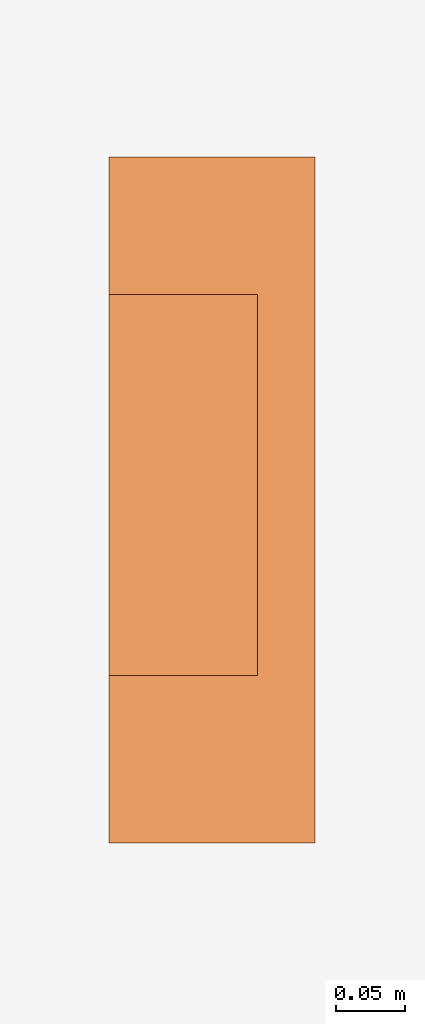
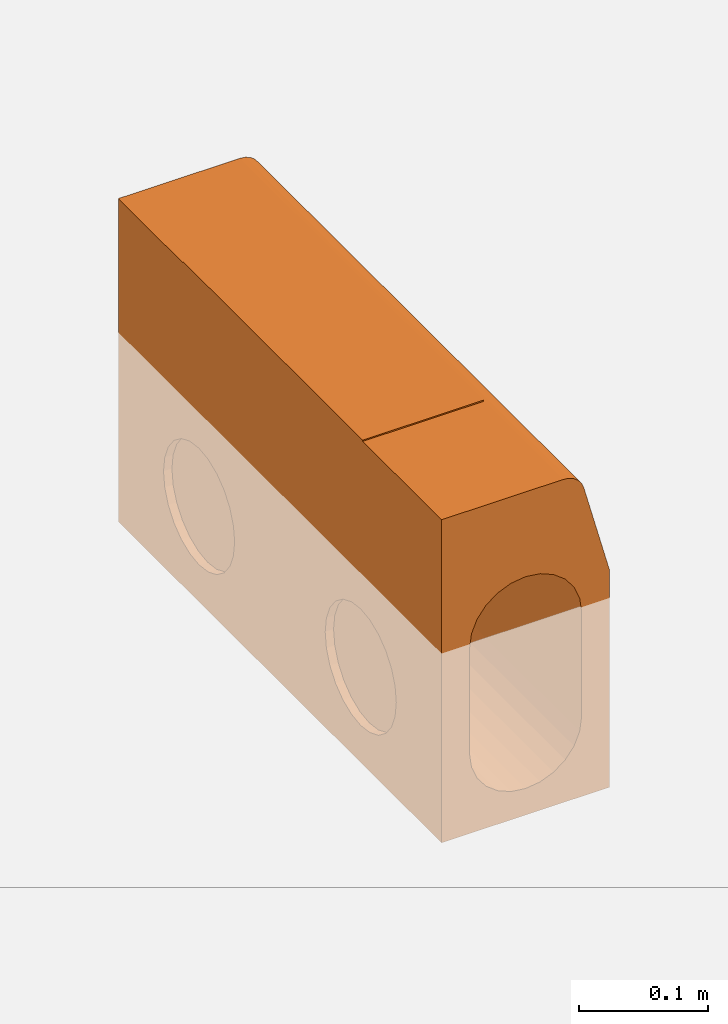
# One storey, part 2 of 2: 1 proxy.
"""IFC2X3 building model written with IfcOpenShell, lengths in millimetres."""

from ifc_helpers import new_model, entity, si_unit, converted_unit, direction, frame, origin, place, context, subcontext, project, spatial, faceted_brep, source, transform, mapped, material, material_list, element, save


model = new_model("IFC2X3")

# Units and contexts
model_context = context("Model", 3, precision=1e-06, world=origin(), true_north=direction((2.0, 6.12303176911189e-17, 1.0)))
context_of_model = context(None, 3, precision=1e-06, world=origin(), true_north=direction((2.0, 6.12303176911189e-17, 1.0)))
body_context = subcontext(model_context, "Body", "Model", "MODEL_VIEW")
ifc_project = project(units=[si_unit("LENGTHUNIT", "METRE", prefix="MILLI"), si_unit("AREAUNIT", "SQUARE_METRE", prefix="MILLI"), si_unit("VOLUMEUNIT", "CUBIC_METRE", prefix="MILLI"), converted_unit("PLANEANGLEUNIT", "DEGREE", entity("IfcRatioMeasure", 0.0174532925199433), si_unit("PLANEANGLEUNIT", "RADIAN"), dimensions=[0, 0, 0, 0, 0, 0, 0]), si_unit("TIMEUNIT", "SECOND")], contexts=[model_context, context_of_model])

# Site, building, storey
site_placement = place(None, origin())
site = spatial("IfcSite", under=ifc_project, at=site_placement, Name="Default", CompositionType="ELEMENT")
building_placement = place(site_placement, origin())
building = spatial("IfcBuilding", under=site, at=building_placement, CompositionType="ELEMENT")
storey_placement = place(building_placement, origin())
storey = spatial("IfcBuildingStorey", under=building, at=storey_placement, Name="Level 1", CompositionType="ELEMENT", Elevation=0.0)

# Proxy
ifc_material_1 = material(Name="ACO Polymer Concrete.")
ifc_material_2 = material(Name="Iron, Cast")
ifc_material_list = material_list([ifc_material_1, ifc_material_2])
shared_shape = source(origin(), body_context, "Body", "Brep", [
    faceted_brep([(-67.4955609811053, 321.876323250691, -75.764952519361), (-67.4955609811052, 347.50224369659, -42.3686027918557), (-67.4955609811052, 360.767196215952, -36.8740795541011), (-67.4955609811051, 375.00224369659, -35.0), (-67.4955609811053, 327.370846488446, -62.4999999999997), (-67.4955609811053, 336.11137073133, -51.1091270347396), (-67.4955609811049, 428.128164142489, -75.7649525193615), (-67.4955609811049, 413.89311666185, -128.89087296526), (-67.495560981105, 402.50224369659, -42.3686027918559), (-67.495560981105, 389.237291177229, -36.8740795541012), (-67.4955609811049, 413.89311666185, -51.10912703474), (-67.4955609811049, 422.633640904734, -62.5000000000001), (-67.4955609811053, 321.876323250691, -104.235047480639), (-67.4955609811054, 320.00224369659, -90.0), (-67.4955609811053, 336.11137073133, -128.89087296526), (-67.4955609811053, 327.370846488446, -117.5), (-67.4955609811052, 347.50224369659, -137.631397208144), (-67.4955609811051, 375.00224369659, -145.0), (-67.4955609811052, 360.767196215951, -143.125920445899), (-67.4955609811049, 428.128164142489, -104.235047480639), (-67.4955609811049, 422.633640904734, -117.5), (-67.4955609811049, 430.00224369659, -90.0), (-67.495560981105, 402.50224369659, -137.631397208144), (-67.495560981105, 389.237291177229, -143.125920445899), (-75.0, 0.0, -180.0), (-43.3012701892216, 0.0, -130.0), (-48.2962913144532, 0.0, -117.940952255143), (-35.3553390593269, 0.0, -140.355339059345), (-50.0, 0.0, -105.0), (-50.0, 0.0, -5.0), (75.0, 0.0, -180.0), (12.9409522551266, 0.0, -153.29629131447), (0.0, 0.0, -155.0), (-25.0, 0.0, -148.301270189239), (-12.9409522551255, 0.0, -153.29629131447), (-48.2962913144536, 0.0, 7.94095225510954), (-75.0, 0.0, 125.0), (-43.301270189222, 0.0, 20.0), (-35.3553390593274, 0.0, 30.3553390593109), (-25.0, 0.0, 38.3012701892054), (-12.940952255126, 0.0, 43.2962913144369), (0.0, 0.0, 45.0), (33.6258679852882, 0.0, 125.0), (12.9409522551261, 0.0, 43.2962913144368), (51.9784586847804, 0.0, 110.917561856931), (35.3553390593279, 0.0, -140.355339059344), (25.0, 0.0, -148.301270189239), (43.3012701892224, 0.0, -130.0), (48.2962913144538, 0.0, -117.940952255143), (50.0, 0.0, -105.0), (75.0, 0.0, 25.0), (50.0, 0.0, -5.0), (48.2962913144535, 0.0, 7.94095225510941), (43.301270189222, 0.0, 20.0), (43.1258679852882, 0.0, 122.454482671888), (38.5434298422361, 0.0, 124.352590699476), (47.0608968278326, 0.0, 119.435028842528), (25.0, 0.0, 38.3012701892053), (35.3553390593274, 0.0, 30.3553390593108), (50.0803506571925, 0.0, 115.499999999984), (75.0, 500.0, -180.0), (48.2962913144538, 500.0, -117.940952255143), (50.0, 500.0, -105.0), (75.0, 500.0, 25.0), (43.3012701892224, 500.0, -130.0), (50.0, 500.0, -5.0), (25.0, 500.0, -148.301270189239), (35.3553390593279, 500.0, -140.355339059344), (48.2962913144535, 500.0, 7.94095225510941), (43.301270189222, 500.0, 20.0), (12.9409522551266, 500.0, -153.29629131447), (50.0803506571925, 500.0, 115.499999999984), (51.9784586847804, 500.0, 110.917561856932), (33.6258679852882, 500.0, 125.0), (47.0608968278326, 500.0, 119.435028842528), (35.3553390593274, 500.0, 30.3553390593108), (25.0, 500.0, 38.3012701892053), (12.9409522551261, 500.0, 43.2962913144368), (38.5434298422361, 500.0, 124.352590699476), (43.1258679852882, 500.0, 122.454482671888), (-12.9409522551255, 500.0, -153.29629131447), (0.0, 500.0, -155.0), (-75.0, 500.0, -180.0), (-25.0, 500.0, -148.301270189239), (-35.3553390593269, 500.0, -140.355339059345), (-43.3012701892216, 500.0, -130.0), (-48.2962913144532, 500.0, -117.940952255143), (-50.0, 500.0, -105.0), (-50.0, 500.0, -5.0), (-75.0, 500.0, 125.0), (-12.940952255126, 500.0, 43.2962913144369), (-25.0, 500.0, 38.3012701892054), (0.0, 500.0, 45.0), (-48.2962913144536, 500.0, 7.94095225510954), (-35.3553390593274, 500.0, 30.3553390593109), (-43.301270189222, 500.0, 20.0), (-27.4999999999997, 202.368602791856, -180.0), (-14.2350474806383, 196.874079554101, -180.0), (-38.8908729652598, 211.109127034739, -180.0), (0.0, 195.0, -180.0), (-55.0, 250.0, -180.0), (-53.1259204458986, 235.764952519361, -180.0), (-47.6313972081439, 222.499999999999, -180.0), (14.2350474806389, 196.874079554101, -180.0), (27.5000000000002, 202.368602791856, -180.0), (38.8908729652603, 211.10912703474, -180.0), (47.6313972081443, 222.5, -180.0), (53.1259204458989, 235.764952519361, -180.0), (55.0, 250.0, -180.0), (-47.6313972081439, 277.5, -180.0), (-53.1259204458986, 264.235047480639, -180.0), (-38.8908729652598, 288.89087296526, -180.0), (-27.4999999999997, 297.631397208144, -180.0), (-14.2350474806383, 303.125920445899, -180.0), (0.0, 305.0, -180.0), (53.1259204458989, 264.235047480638, -180.0), (47.6313972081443, 277.5, -180.0), (27.5000000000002, 297.631397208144, -180.0), (14.2350474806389, 303.125920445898, -180.0), (38.8908729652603, 288.89087296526, -180.0), (33.6258679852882, 152.199908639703, 125.0), (33.6258679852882, 304.399753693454, 125.0), (-75.0, 110.763934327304, -36.8740795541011), (-75.0, 97.4989818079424, -42.3686027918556), (-75.0, 124.998981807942, -35.0), (-75.0, 86.1081088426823, -51.1091270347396), (-75.0, 77.3675845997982, -62.4999999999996), (-75.0, 71.8730613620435, -75.7649525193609), (-75.0, 139.234029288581, -36.8740795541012), (-75.0, 152.498981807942, -42.3686027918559), (-75.0, 336.11137073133, -51.1091270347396), (-75.0, 172.630379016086, -62.5000000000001), (-75.0, 163.889854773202, -51.1091270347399), (-75.0, 347.50224369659, -42.3686027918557), (-75.0, 179.998981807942, -90.0), (-75.0, 178.124902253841, -75.7649525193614), (-75.0, 320.00224369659, -90.0), (-75.0, 321.876323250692, -75.764952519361), (-75.0, 71.8730613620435, -104.235047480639), (-75.0, 77.3675845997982, -117.5), (-75.0, 69.9989818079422, -90.0), (-75.0, 86.1081088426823, -128.89087296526), (-75.0, 97.4989818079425, -137.631397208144), (-75.0, 110.763934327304, -143.125920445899), (-75.0, 172.630379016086, -117.5), (-75.0, 178.124902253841, -104.235047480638), (-75.0, 321.876323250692, -104.235047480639), (-75.0, 327.370846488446, -117.5), (-75.0, 163.889854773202, -128.89087296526), (-75.0, 336.11137073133, -128.89087296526), (-75.0, 124.998981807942, -145.0), (-75.0, 139.234029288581, -143.125920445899), (-75.0, 152.498981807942, -137.631397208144), (-75.0, 347.50224369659, -137.631397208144), (-75.0, 360.767196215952, -143.125920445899), (-75.0, 360.767196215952, -36.8740795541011), (-75.0, 327.370846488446, -62.4999999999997), (-75.0, 375.00224369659, -35.0), (-75.0, 389.237291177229, -36.8740795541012), (-75.0, 402.50224369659, -42.3686027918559), (-75.0, 413.89311666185, -51.10912703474), (-75.0, 428.128164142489, -75.7649525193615), (-75.0, 422.633640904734, -62.5000000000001), (-75.0, 375.00224369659, -145.0), (-75.0, 428.128164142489, -104.235047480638), (-75.0, 430.00224369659, -90.0), (-75.0, 422.633640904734, -117.5), (-75.0, 389.237291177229, -143.125920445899), (-75.0, 402.50224369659, -137.631397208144), (-75.0, 413.89311666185, -128.89087296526), (51.9784586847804, 423.900064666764, 110.917561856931), (51.9784586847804, 304.399745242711, 110.917561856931), (45.1923351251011, 383.807890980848, 121.073713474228), (48.6995814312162, 348.576324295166, 117.5664671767), (50.6694822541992, 104.875634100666, 114.39733366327), (48.6995813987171, 151.423670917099, 117.566467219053), (40.8968531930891, 348.576326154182, 123.553711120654), (37.0249115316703, 364.149902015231, 124.693488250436), (37.6444103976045, 238.971100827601, 124.570172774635), (50.5232021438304, 238.971095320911, 114.687928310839), (50.8026538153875, 364.149900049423, 114.12145482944), (45.1923350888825, 116.192108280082, 121.07371350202), (47.995153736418, 249.999998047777, 118.430753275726), (41.9140087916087, 250.0, 123.096979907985), (45.1923351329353, 249.999999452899, 121.073713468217), (33.6258679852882, 423.900077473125, 125.0), (51.9784586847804, 152.199872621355, 110.917561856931), (40.8968531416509, 151.423674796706, 123.55371114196), (37.3258574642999, 104.875635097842, 124.636257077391), (-38.8908729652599, 288.89087296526, -170.0), (-27.4999999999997, 297.631397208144, -170.0), (-14.2350474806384, 303.125920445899, -170.0), (-53.1259204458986, 264.235047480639, -170.0), (14.2350474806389, 303.125920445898, -170.0), (0.0, 305.0, -170.0), (-47.6313972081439, 277.5, -170.0), (47.6313972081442, 277.5, -170.0), (-53.1259204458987, 235.764952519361, -170.0), (27.5000000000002, 297.631397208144, -170.0), (38.8908729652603, 288.89087296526, -170.0), (53.1259204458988, 264.235047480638, -170.0), (55.0, 250.0, -170.0), (-55.0, 250.0, -170.0), (-47.6313972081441, 222.5, -170.0), (-27.5, 202.368602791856, -170.0), (-38.8908729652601, 211.10912703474, -170.0), (0.0, 195.0, -170.0), (-14.2350474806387, 196.874079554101, -170.0), (27.4999999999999, 202.368602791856, -170.0), (47.631397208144, 222.5, -170.0), (53.1259204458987, 235.764952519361, -170.0), (38.89087296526, 211.10912703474, -170.0), (14.2350474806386, 196.874079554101, -170.0), (-67.4955609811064, 71.8730613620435, -75.7649525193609), (-67.4955609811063, 97.4989818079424, -42.3686027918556), (-67.4955609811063, 110.763934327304, -36.8740795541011), (-67.4955609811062, 124.998981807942, -35.0), (-67.4955609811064, 77.3675845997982, -62.4999999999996), (-67.4955609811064, 86.1081088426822, -51.1091270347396), (-67.495560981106, 163.889854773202, -128.89087296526), (-67.495560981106, 178.124902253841, -75.7649525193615), (-67.495560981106, 172.630379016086, -117.5), (-67.4955609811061, 139.234029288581, -36.8740795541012), (-67.4955609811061, 152.498981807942, -42.3686027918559), (-67.495560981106, 163.889854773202, -51.1091270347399), (-67.495560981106, 172.630379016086, -62.5000000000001), (-67.4955609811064, 71.8730613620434, -104.235047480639), (-67.4955609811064, 69.9989818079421, -90.0), (-67.4955609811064, 86.108108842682, -128.89087296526), (-67.4955609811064, 77.367584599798, -117.5), (-67.4955609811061, 139.234029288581, -143.125920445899), (-67.4955609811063, 97.4989818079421, -137.631397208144), (-67.4955609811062, 124.998981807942, -145.0), (-67.4955609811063, 110.763934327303, -143.125920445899), (-67.495560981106, 179.998981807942, -90.0), (-67.495560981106, 178.124902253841, -104.235047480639), (-67.4955609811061, 152.498981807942, -137.631397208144)], [[[0, 1, 2, 3]], [[4, 5, 1, 0]], [[6, 7, 0, 8]], [[3, 9, 8, 0]], [[10, 11, 6, 8]], [[12, 13, 0, 14]], [[14, 15, 12]], [[14, 0, 7, 16]], [[17, 18, 16, 7]], [[19, 20, 6, 21]], [[7, 22, 23, 17]], [[6, 20, 7]], [[24, 25, 26]], [[25, 24, 27]], [[26, 28, 24]], [[24, 28, 29]], [[30, 31, 32]], [[33, 27, 24]], [[34, 33, 24]], [[32, 34, 24, 30]], [[29, 35, 36, 24]], [[36, 37, 38]], [[37, 36, 35]], [[38, 39, 36]], [[40, 41, 42, 36]], [[39, 40, 36]], [[42, 41, 43, 44]], [[45, 46, 30]], [[45, 30, 47]], [[48, 30, 49]], [[30, 48, 47]], [[50, 51, 49, 30]], [[50, 52, 51]], [[46, 31, 30]], [[53, 52, 50]], [[54, 55, 42, 56]], [[44, 57, 58, 50]], [[44, 43, 57]], [[42, 44, 59, 56]], [[58, 53, 50]], [[60, 61, 62, 63]], [[61, 60, 64]], [[65, 63, 62]], [[66, 67, 60]], [[68, 69, 63]], [[67, 64, 60]], [[60, 70, 66]], [[63, 65, 68]], [[71, 72, 73, 74]], [[72, 63, 75, 76]], [[77, 73, 72, 76]], [[73, 78, 79, 74]], [[63, 69, 75]], [[80, 81, 82]], [[80, 82, 83]], [[81, 70, 60, 82]], [[84, 82, 85]], [[82, 84, 83]], [[86, 85, 82]], [[87, 86, 82]], [[88, 87, 82, 89]], [[89, 73, 90, 91]], [[90, 73, 92]], [[93, 88, 89]], [[94, 95, 89]], [[89, 95, 93]], [[94, 89, 91]], [[92, 73, 77]], [[24, 96, 97]], [[96, 24, 98]], [[24, 97, 99]], [[100, 101, 24]], [[102, 98, 24]], [[101, 102, 24]], [[24, 82, 100]], [[99, 103, 30, 24]], [[30, 103, 104]], [[104, 105, 30]], [[106, 107, 30]], [[105, 106, 30]], [[30, 107, 108]], [[109, 110, 82]], [[111, 109, 82]], [[112, 82, 113]], [[82, 112, 111]], [[114, 113, 82, 60]], [[110, 100, 82]], [[115, 116, 60]], [[108, 115, 60]], [[117, 118, 60]], [[119, 60, 116]], [[60, 119, 117]], [[118, 114, 60]], [[108, 60, 30]], [[63, 50, 30, 60]], [[36, 42, 120, 121]], [[73, 89, 36]], [[36, 122, 123]], [[122, 36, 124]], [[36, 123, 125]], [[36, 126, 127, 24]], [[125, 126, 36]], [[128, 124, 36]], [[129, 128, 36, 89]], [[130, 131, 132, 133]], [[134, 135, 136]], [[135, 131, 137, 136]], [[133, 132, 129, 89]], [[138, 139, 24]], [[140, 138, 24]], [[24, 141, 142]], [[141, 24, 139]], [[24, 142, 143]], [[140, 24, 127]], [[144, 145, 146, 147]], [[148, 144, 147, 149]], [[143, 150, 24]], [[151, 152, 153, 154]], [[24, 150, 151, 82]], [[152, 148, 149, 153]], [[145, 134, 136, 146]], [[155, 133, 89]], [[156, 137, 131]], [[130, 156, 131]], [[157, 89, 158]], [[89, 157, 155]], [[158, 89, 159]], [[160, 159, 89]], [[161, 162, 89, 82]], [[160, 89, 162]], [[154, 163, 82, 151]], [[164, 165, 82]], [[166, 164, 82]], [[167, 168, 82]], [[169, 82, 168]], [[82, 169, 166]], [[167, 82, 163]], [[165, 161, 82]], [[88, 29, 28, 87]], [[37, 35, 93, 95]], [[38, 37, 95, 94]], [[40, 39, 91, 90]], [[39, 38, 94, 91]], [[41, 40, 90, 92]], [[35, 29, 88, 93]], [[57, 43, 77, 76]], [[58, 57, 76, 75]], [[52, 53, 69, 68]], [[53, 58, 75, 69]], [[51, 52, 68, 65]], [[92, 77, 43, 41]], [[62, 49, 51, 65]], [[45, 47, 64, 67]], [[31, 46, 66, 70]], [[46, 45, 67, 66]], [[32, 31, 70, 81]], [[62, 61, 48, 49]], [[47, 48, 61, 64]], [[33, 34, 80, 83]], [[27, 33, 83, 84]], [[26, 25, 85, 86]], [[25, 27, 84, 85]], [[28, 26, 86, 87]], [[81, 80, 34, 32]], [[44, 50, 63]], [[63, 72, 170, 171]], [[74, 172, 173]], [[59, 174, 175]], [[176, 177, 178]], [[179, 171, 180]], [[71, 74, 173]], [[180, 71, 173]], [[181, 175, 182]], [[79, 78, 176]], [[74, 79, 172]], [[59, 175, 56]], [[183, 172, 176]], [[71, 170, 72]], [[184, 181, 182, 172]], [[78, 73, 185]], [[44, 186, 174]], [[54, 187, 55]], [[177, 185, 121]], [[181, 187, 54]], [[187, 188, 55]], [[54, 56, 181]], [[184, 172, 183, 181]], [[120, 188, 178]], [[186, 171, 179]], [[176, 172, 79]], [[55, 188, 42]], [[175, 181, 56]], [[71, 180, 170]], [[171, 170, 180]], [[173, 182, 179]], [[173, 179, 180]], [[179, 175, 174]], [[178, 177, 121]], [[185, 177, 78]], [[78, 177, 176]], [[120, 178, 121]], [[178, 187, 183]], [[178, 183, 176]], [[181, 183, 187]], [[44, 174, 59]], [[179, 174, 186]], [[179, 182, 175]], [[172, 182, 173]], [[178, 188, 187]], [[42, 188, 120]], [[189, 190, 191, 192]], [[193, 192, 191, 194]], [[195, 189, 192]], [[196, 197, 192, 198]], [[193, 198, 192]], [[199, 196, 198]], [[196, 200, 201]], [[197, 202, 192]], [[203, 197, 204, 205]], [[206, 207, 204, 208]], [[196, 209, 204, 197]], [[201, 210, 209, 196]], [[209, 211, 208, 204]], [[208, 212, 206]], [[200, 115, 108, 201]], [[196, 116, 115, 200]], [[198, 117, 119, 199]], [[199, 119, 116, 196]], [[193, 118, 117, 198]], [[118, 193, 194, 114]], [[191, 113, 114, 194]], [[190, 112, 113, 191]], [[195, 109, 111, 189]], [[189, 111, 112, 190]], [[192, 110, 109, 195]], [[110, 192, 202, 100]], [[197, 101, 100, 202]], [[203, 102, 101, 197]], [[204, 96, 98, 205]], [[205, 98, 102, 203]], [[207, 97, 96, 204]], [[97, 207, 206, 99]], [[212, 103, 99, 206]], [[208, 104, 103, 212]], [[209, 106, 105, 211]], [[211, 105, 104, 208]], [[210, 107, 106, 209]], [[107, 210, 201, 108]], [[213, 214, 215, 216]], [[217, 218, 214, 213]], [[219, 213, 220, 221]], [[220, 222, 223, 224]], [[213, 216, 222, 220]], [[225, 220, 224]], [[226, 227, 213, 228]], [[228, 229, 226]], [[228, 213, 230, 231]], [[232, 233, 231, 230]], [[234, 235, 221, 220]], [[219, 236, 230, 213]], [[11, 162, 161, 6]], [[6, 161, 165, 21]], [[9, 158, 159, 8]], [[8, 159, 160, 10]], [[10, 160, 162, 11]], [[158, 9, 3, 157]], [[5, 130, 133, 1]], [[1, 133, 155, 2]], [[13, 136, 137, 0]], [[0, 137, 156, 4]], [[4, 156, 130, 5]], [[2, 155, 157, 3]], [[15, 147, 146, 12]], [[12, 146, 136, 13]], [[18, 154, 153, 16]], [[16, 153, 149, 14]], [[14, 149, 147, 15]], [[154, 18, 17, 163]], [[7, 169, 168, 22]], [[22, 168, 167, 23]], [[21, 165, 164, 19]], [[19, 164, 166, 20]], [[20, 166, 169, 7]], [[23, 167, 163, 17]], [[225, 131, 135, 220]], [[220, 135, 134, 234]], [[222, 128, 129, 223]], [[223, 129, 132, 224]], [[224, 132, 131, 225]], [[128, 222, 216, 124]], [[218, 125, 123, 214]], [[214, 123, 122, 215]], [[227, 140, 127, 213]], [[213, 127, 126, 217]], [[217, 126, 125, 218]], [[215, 122, 124, 216]], [[229, 139, 138, 226]], [[226, 138, 140, 227]], [[233, 143, 142, 231]], [[231, 142, 141, 228]], [[228, 141, 139, 229]], [[143, 233, 232, 150]], [[219, 148, 152, 236]], [[236, 152, 151, 230]], [[234, 134, 145, 235]], [[235, 145, 144, 221]], [[221, 144, 148, 219]], [[230, 151, 150, 232]], [[36, 121, 185, 73]], [[63, 171, 186, 44]]]),
    faceted_brep([(-75.0, 122.0, 126.144067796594), (-75.0, 122.0, 123.263731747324), (-26.9402808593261, 122.0, 126.144067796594), (33.0, 122.0, 123.263731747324), (33.0, 122.0, 126.144067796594), (33.0, 400.0, 126.144067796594), (33.0, 400.0, 123.263731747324), (-26.9402808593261, 400.0, 126.144067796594), (-75.0, 400.0, 123.263731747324), (-75.0, 400.0, 126.144067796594)], [[[0, 1, 2]], [[3, 4, 2, 1]], [[5, 6, 7]], [[8, 9, 7, 6]], [[1, 8, 6, 3]], [[0, 9, 8, 1]], [[3, 6, 5, 4]], [[2, 7, 9, 0]], [[5, 7, 2, 4]]]),
])
proxy_placement = place(storey_placement, frame((-16445.0929860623, 3475.53128318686, 0.0)))
element("IfcBuildingElementProxy", 1, at=proxy_placement, inside=storey, material=ifc_material_list, Name="Civil-Drainage-Channel-ACO-KerbDrain-HB305-File 1 of 2-Main Units:7962 - Access unit - 500mm LG:7962 - Access unit - 500mm LG", ObjectType="7962 - Access unit - 500mm LG", CompositionType="ELEMENT", context=body_context, shape_type="MappedRepresentation", body=[
    mapped(shared_shape, transform((0.0, 0.0, 0.0), scale=1.0)),
])

save(model, "model.ifc")
